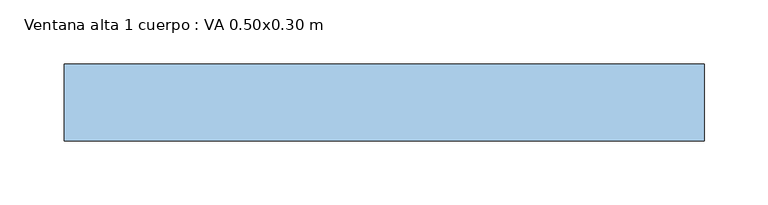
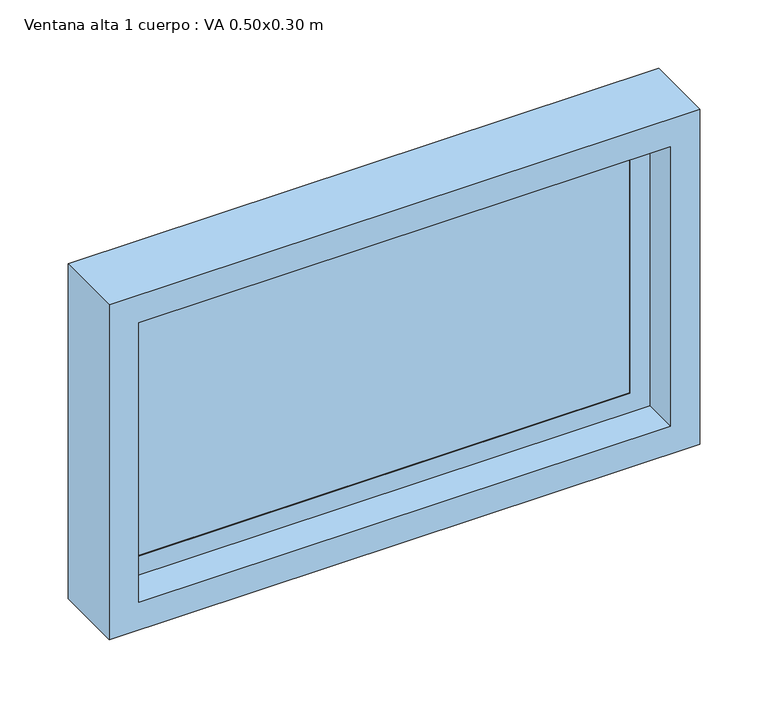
"""IFC4 building model written with IfcOpenShell, lengths in millimetres: window geometry, Ventana alta 1 cuerpo : VA 0.50x0.30 m."""

from ifc_helpers import new_model, si_unit, frame, origin, place, context, project, spatial, polyline, outline, extrude, faceted_brep, source, transform, mapped, element, save


def ventana_alta_1_cuerpo_va_0_50x0_30_m_a0596043(model_context):
    return source(origin(), model_context, "Body", "SolidModel", [
        extrude(outline(polyline([(221.40625, 1.2096174), (-221.40625, 1.2096174), (-221.40625, 10.7096174), (221.40625, 10.7096174), (221.40625, 1.2096174)])), frame((0.0, 0.0, 1628.59375), z_axis=(0.0, 0.0, 1.0), x_axis=(1.0, 0.0, 0.0)), (0.0, 0.0, 1.0), 242.8125),
        faceted_brep([(-208.2282521, 1.2096174, 1858.2282521), (-208.2282521, 0.0, 1858.2282521), (-208.2282521, 0.0, 1641.7717479), (-208.2282521, 1.2096174, 1641.7717479), (-221.40625, 10.7096174, 1871.40625), (-221.40625, 1.2096174, 1871.40625), (-221.40625, 1.2096174, 1628.59375), (-221.40625, 10.7096174, 1628.59375), (-208.2282521, 11.9192349, 1858.2282521), (-208.2282521, 10.7096174, 1858.2282521), (-208.2282521, 10.7096174, 1641.7717479), (-208.2282521, 11.9192349, 1641.7717479), (-225.0, 0.0, 1875.0), (-225.0, 11.9192349, 1875.0), (-225.0, 11.9192349, 1625.0), (-225.0, 0.0, 1625.0), (208.2282521, 0.0, 1641.7717479), (208.2282521, 1.2096174, 1641.7717479), (221.40625, 1.2096174, 1628.59375), (221.40625, 10.7096174, 1628.59375), (208.2282521, 10.7096174, 1641.7717479), (208.2282521, 11.9192349, 1641.7717479), (225.0, 11.9192349, 1625.0), (225.0, 0.0, 1625.0), (208.2282521, 0.0, 1858.2282521), (208.2282521, 1.2096174, 1858.2282521), (221.40625, 1.2096174, 1871.40625), (221.40625, 10.7096174, 1871.40625), (208.2282521, 10.7096174, 1858.2282521), (208.2282521, 11.9192349, 1858.2282521), (225.0, 11.9192349, 1875.0), (225.0, 0.0, 1875.0)], [[[0, 1, 2, 3]], [[4, 5, 6, 7]], [[8, 9, 10, 11]], [[12, 13, 14, 15]], [[3, 2, 16, 17]], [[7, 6, 18, 19]], [[11, 10, 20, 21]], [[15, 14, 22, 23]], [[17, 16, 24, 25]], [[19, 18, 26, 27]], [[21, 20, 28, 29]], [[23, 22, 30, 31]], [[15, 23, 31, 12], [1, 24, 16, 2]], [[25, 24, 1, 0]], [[5, 26, 18, 6], [3, 17, 25, 0]], [[27, 26, 5, 4]], [[7, 19, 27, 4], [9, 28, 20, 10]], [[29, 28, 9, 8]], [[13, 30, 22, 14], [11, 21, 29, 8]], [[31, 30, 13, 12]]]),
        extrude(outline(polyline([(1600.0, -250.0), (1600.0, 250.0), (1900.0, 250.0), (1900.0, -250.0), (1600.0, -250.0)]), holes=[polyline([(1875.0, -225.0), (1875.0, 225.0), (1625.0, 225.0), (1625.0, -225.0), (1875.0, -225.0)])]), frame((0.0, -30.15, 0.0), z_axis=(0.0, 1.0, 0.0), x_axis=(0.0, 0.0, 1.0)), (0.0, 0.0, 1.0), 60.3),
    ])


if __name__ == "__main__":
    model = new_model("IFC4")
    model_context = context("Model", 3, world=origin())
    ifc_project = project(units=[si_unit("LENGTHUNIT", "METRE", prefix="MILLI")], contexts=[model_context])
    site = spatial("IfcSite", under=ifc_project)
    building = spatial("IfcBuilding", under=site)
    placement = place(None, origin())
    ventana_alta_1_cuerpo_va_0_50x0_30_m_shape = ventana_alta_1_cuerpo_va_0_50x0_30_m_a0596043(model_context)
    element("IfcWindow", 1, ObjectType="Ventana alta 1 cuerpo : VA 0.50x0.30 m", at=placement, inside=building, context=model_context, shape_type="MappedRepresentation", body=[
        mapped(ventana_alta_1_cuerpo_va_0_50x0_30_m_shape, transform((0.0, 0.0, 0.0), x_axis=(1.0, 0.0, 0.0), y_axis=(0.0, 1.0, 0.0), z_axis=(0.0, 0.0, 1.0))),
    ])
    save(model, "model.ifc")
